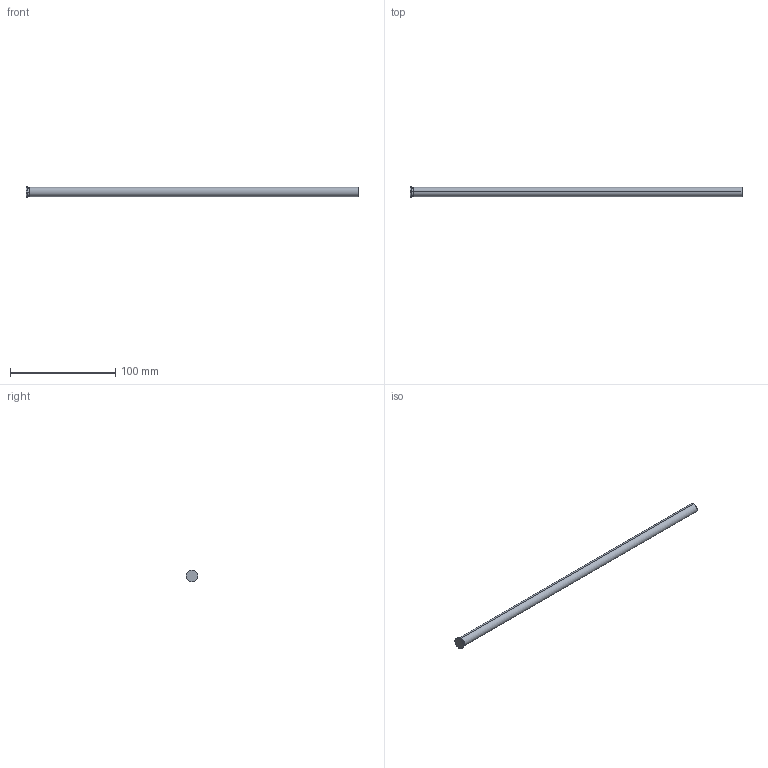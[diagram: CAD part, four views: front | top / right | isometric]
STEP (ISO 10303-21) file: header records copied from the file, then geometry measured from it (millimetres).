
FILE_DESCRIPTION (( 'STEP AP214' ), '1' );
FILE_NAME ('D-9x315.STEP', '2020-06-08T17:28:31', ( 'August' ), ( '' ), 'SwSTEP 2.0', 'SolidWorks 2018', '' );
FILE_SCHEMA (( 'AUTOMOTIVE_DESIGN' ));
Length unit declared in the file: millimetre
Products named in the file (1): D-9x315
Bounding box: 315 x 11 x 11 mm (x, y, z)
Volume: 20097.3 mm3; surface area: 9084.9 mm2
Topology: 1 solids, 1 shells, 10 faces, 18 edges, 10 vertices
Faces by surface type: cylinder 4, torus 2, cone 2, plane 2
Entity records: 280 total; most frequent: DIRECTION 52, CARTESIAN_POINT 39, ORIENTED_EDGE 36, AXIS2_PLACEMENT_3D 23, EDGE_CURVE 18, CIRCLE 12, FACE_OUTER_BOUND 10, EDGE_LOOP 10
